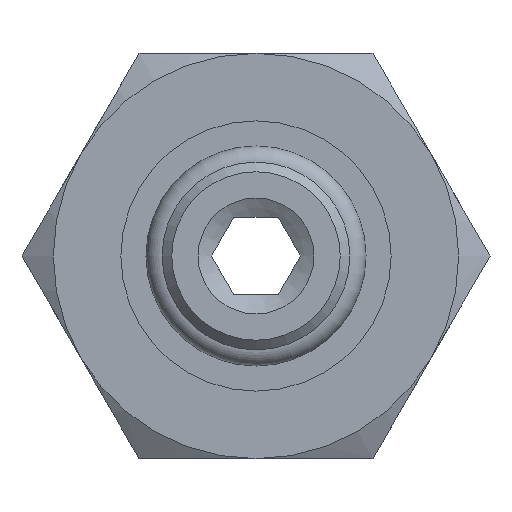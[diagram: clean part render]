
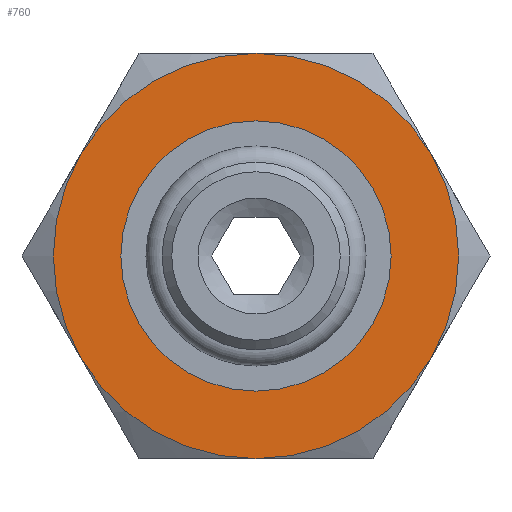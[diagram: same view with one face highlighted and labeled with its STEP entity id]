
A CAD part, front view. The second image highlights one B-rep face of the part: STEP entity #760.
In plain terms, the highlighted planar face has unit normal (0, -1, 0).
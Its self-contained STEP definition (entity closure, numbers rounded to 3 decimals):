
#59=FACE_BOUND('',#183,.T.);
#79=PLANE('',#868);
#131=FACE_OUTER_BOUND('',#182,.T.);
#182=EDGE_LOOP('',(#686,#687,#688,#689,#690,#691));
#183=EDGE_LOOP('',(#692,#693));
#272=CIRCLE('',#832,10.5);
#273=CIRCLE('',#834,10.5);
#274=CIRCLE('',#836,10.5);
#275=CIRCLE('',#838,10.5);
#276=CIRCLE('',#840,10.5);
#277=CIRCLE('',#842,10.5);
#288=CIRCLE('',#869,7.);
#289=CIRCLE('',#870,7.);
#342=VERTEX_POINT('',#1279);
#343=VERTEX_POINT('',#1283);
#345=VERTEX_POINT('',#1290);
#347=VERTEX_POINT('',#1300);
#349=VERTEX_POINT('',#1313);
#351=VERTEX_POINT('',#1323);
#363=VERTEX_POINT('',#1384);
#364=VERTEX_POINT('',#1385);
#437=EDGE_CURVE('',#342,#343,#272,.T.);
#440=EDGE_CURVE('',#345,#342,#273,.T.);
#443=EDGE_CURVE('',#347,#345,#274,.T.);
#445=EDGE_CURVE('',#349,#347,#275,.T.);
#448=EDGE_CURVE('',#351,#349,#276,.T.);
#451=EDGE_CURVE('',#343,#351,#277,.T.);
#474=EDGE_CURVE('',#363,#364,#288,.T.);
#475=EDGE_CURVE('',#364,#363,#289,.T.);
#686=ORIENTED_EDGE('',*,*,#451,.T.);
#687=ORIENTED_EDGE('',*,*,#448,.T.);
#688=ORIENTED_EDGE('',*,*,#445,.T.);
#689=ORIENTED_EDGE('',*,*,#443,.T.);
#690=ORIENTED_EDGE('',*,*,#440,.T.);
#691=ORIENTED_EDGE('',*,*,#437,.T.);
#692=ORIENTED_EDGE('',*,*,#474,.F.);
#693=ORIENTED_EDGE('',*,*,#475,.F.);
#760=ADVANCED_FACE('',(#131,#59),#79,.T.);
#832=AXIS2_PLACEMENT_3D('',#1287,#992,#993);
#834=AXIS2_PLACEMENT_3D('',#1297,#996,#997);
#836=AXIS2_PLACEMENT_3D('',#1307,#1000,#1001);
#838=AXIS2_PLACEMENT_3D('',#1314,#1004,#1005);
#840=AXIS2_PLACEMENT_3D('',#1324,#1008,#1009);
#842=AXIS2_PLACEMENT_3D('',#1333,#1012,#1013);
#868=AXIS2_PLACEMENT_3D('',#1383,#1075,#1076);
#869=AXIS2_PLACEMENT_3D('',#1386,#1077,#1078);
#870=AXIS2_PLACEMENT_3D('',#1387,#1079,#1080);
#992=DIRECTION('center_axis',(0.,-1.,0.));
#993=DIRECTION('ref_axis',(1.,0.,0.));
#996=DIRECTION('center_axis',(0.,-1.,0.));
#997=DIRECTION('ref_axis',(1.,0.,0.));
#1000=DIRECTION('center_axis',(0.,-1.,0.));
#1001=DIRECTION('ref_axis',(1.,0.,0.));
#1004=DIRECTION('center_axis',(0.,-1.,0.));
#1005=DIRECTION('ref_axis',(1.,0.,0.));
#1008=DIRECTION('center_axis',(0.,-1.,0.));
#1009=DIRECTION('ref_axis',(1.,0.,0.));
#1012=DIRECTION('center_axis',(0.,-1.,0.));
#1013=DIRECTION('ref_axis',(1.,0.,0.));
#1075=DIRECTION('center_axis',(0.,-1.,0.));
#1076=DIRECTION('ref_axis',(0.,0.,-1.));
#1077=DIRECTION('center_axis',(0.,-1.,0.));
#1078=DIRECTION('ref_axis',(1.,0.,0.));
#1079=DIRECTION('center_axis',(0.,-1.,0.));
#1080=DIRECTION('ref_axis',(1.,0.,0.));
#1279=CARTESIAN_POINT('',(-9.093,7.5,5.25));
#1283=CARTESIAN_POINT('',(-9.093,7.5,-5.25));
#1287=CARTESIAN_POINT('Origin',(0.,7.5,0.));
#1290=CARTESIAN_POINT('',(0.,7.5,10.5));
#1297=CARTESIAN_POINT('Origin',(0.,7.5,0.));
#1300=CARTESIAN_POINT('',(9.093,7.5,5.25));
#1307=CARTESIAN_POINT('Origin',(0.,7.5,0.));
#1313=CARTESIAN_POINT('',(9.093,7.5,-5.25));
#1314=CARTESIAN_POINT('Origin',(0.,7.5,0.));
#1323=CARTESIAN_POINT('',(0.,7.5,-10.5));
#1324=CARTESIAN_POINT('Origin',(0.,7.5,0.));
#1333=CARTESIAN_POINT('Origin',(0.,7.5,0.));
#1383=CARTESIAN_POINT('Origin',(7.,7.5,0.));
#1384=CARTESIAN_POINT('',(7.,7.5,0.));
#1385=CARTESIAN_POINT('',(-7.,7.5,0.));
#1386=CARTESIAN_POINT('Origin',(0.,7.5,0.));
#1387=CARTESIAN_POINT('Origin',(0.,7.5,0.));
